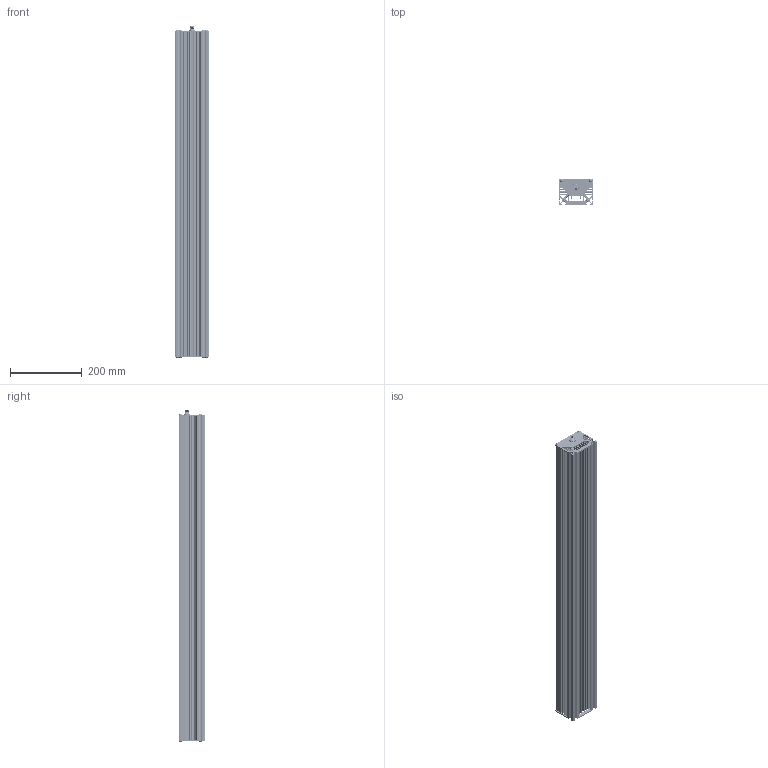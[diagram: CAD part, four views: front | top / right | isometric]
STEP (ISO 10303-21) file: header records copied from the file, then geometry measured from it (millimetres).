
FILE_DESCRIPTION (( 'STEP AP214' ), '1' );
FILE_NAME ('MLLT134.5-XXX.STEP', '2026-05-26T02:10:08', ( '' ), ( '' ), 'SwSTEP 2.0', 'SolidWorks 2025', '' );
FILE_SCHEMA (( 'AUTOMOTIVE_DESIGN' ));
Length unit declared in the file: inch
Products named in the file (20): 2500-00565C-BT; MLLT134.5-XXX; Extrusion MLLT_34.5; Extrusion MLLT_End; 2500-00565C-SBN; 2610-00066-DOME; 10-32 x .750_92949A269; Extrusion MLLT_End M12 B&L-code; 2500-00565C; FSW 4.5-0.2 Connector; Standard Lens; 2500-00565C_ASM; 2060-401; MLL111.5-3535; 3535_holder_10568; LED-Lens Holder and Lens; 2500-00565C-SB; xpg3; SD-MLLTxxxx_34.5; MLL111.5-3535_PCB-LL111.5
Assembly tree (42 placements, depth 6):
  MLLT134.5-XXX
    Extrusion MLLT_34.5
    Extrusion MLLT_End M12 B&L-code
    Extrusion MLLT_End
    10-32 x .750_92949A269  x8
    FSW 4.5-0.2 Connector
    MLL111.5-3535  x3
      MLL111.5-3535_PCB-LL111.5
      LED-Lens Holder and Lens
        3535_holder_10568
        xpg3
          2500-00565C_ASM
            2500-00565C
            2500-00565C-BT
            2500-00565C-SBN
            2500-00565C-SB
          2610-00066-DOME
        Standard Lens
      2060-401
    SD-MLLTxxxx_34.5
Bounding box: 95.25 x 72.5 x 923.67 mm (x, y, z)
Volume: 1867802.6 mm3; surface area: 1406357 mm2
Topology: 355 solids, 355 shells, 9190 faces, 23697 edges, 15358 vertices
Faces by surface type: plane 5433, cylinder 1566, cone 1255, bspline 874, torus 42, sphere 20
Full cylindrical faces by diameter (mm): 0.05 x36, 0.063 x72, 1 x41, 2.25 x12, 2.261 x12, 4.178 x184, 4.826 x176, 5.105 x8, 5.944 x36, 8 x1, 8.3 x1, 9 x1, 9.169 x8, 9.4 x1, 9.45 x2, 9.9 x1, 10 x1, 10.5 x1, 11.4 x1, 12 x1, 13.5 x2, 19.71 x36
Entity records: 37755 total; most frequent: CARTESIAN_POINT 11347, DIRECTION 5126, ORIENTED_EDGE 5048, EDGE_CURVE 2524, AXIS2_PLACEMENT_3D 1854, VERTEX_POINT 1733, VECTOR 1418, LINE 1418
